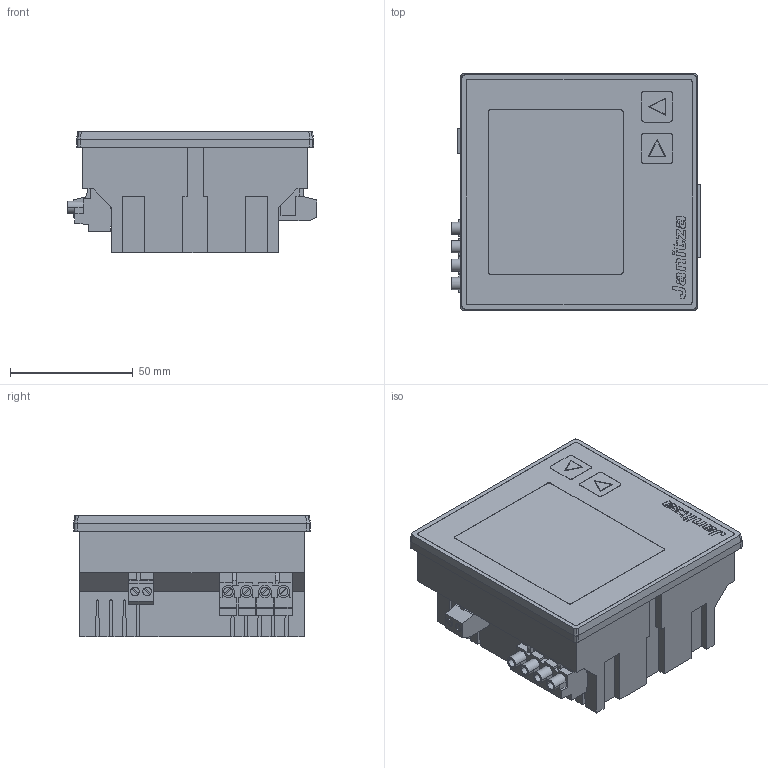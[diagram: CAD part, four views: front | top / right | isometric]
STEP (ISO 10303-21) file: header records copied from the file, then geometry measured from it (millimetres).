
FILE_DESCRIPTION((''),'2;1');
FILE_NAME('C:\Janitza\UMG96RM-M.stp','2013-05-18T21:43:02',('Potschkay'),(''),'Autodesk Inventor 7','Autodesk Inventor 7','');
FILE_SCHEMA(('AUTOMOTIVE_DESIGN { 1 0 10303 214 1 1 1 1 }'));
Length unit declared in the file: millimetre
Products named in the file (9): UMG96RM-M; Blende_UMG96; Taste2; Leiste6; Leiste7-1; Klemme2; Klemme3; Klemme4-1
Assembly tree (9 placements, depth 2):
  UMG96RM-M
    UMG96RM-M
    Blende_UMG96
    Taste2  x2
    Leiste6
    Leiste7-1
    Klemme2
    Klemme3
    Klemme4-1
Bounding box: 101.5 x 96.5 x 49.5 mm (x, y, z)
Volume: 372848.8 mm3; surface area: 59088.1 mm2
Topology: 13 solids, 13 shells, 789 faces, 2166 edges, 1435 vertices
Faces by surface type: plane 530, cylinder 143, bspline 116
Entity records: 25770 total; most frequent: CARTESIAN_POINT 6176, ORIENTED_EDGE 4224, DIRECTION 3668, EDGE_CURVE 2112, VECTOR 1630, LINE 1630, VERTEX_POINT 1399, AXIS2_PLACEMENT_3D 1019
